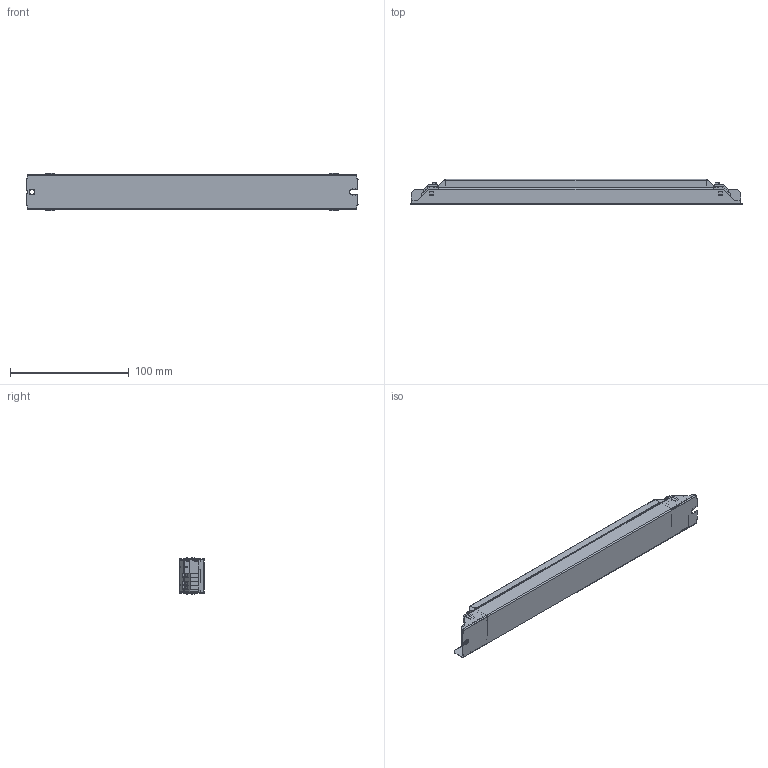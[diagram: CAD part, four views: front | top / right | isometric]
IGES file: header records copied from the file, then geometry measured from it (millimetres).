
Start section: SolidWorks IGES file using analytic representation for surfaces
Global section: file name: D:\ECTR_TEMP\OLQ-batchEngine\queue\temp\4183915swm000.igs; native system: SolidWorks 2017; preprocessor: SolidWorks 2017; author: SYSTEM; date: 200115.102713; units: millimetre
Bounding box: 279 x 21 x 31.39 mm (x, y, z)
Surface area: 35745.8 mm2 (no closed solid volume)
Topology: 0 solids, 0 shells, 875 faces, 6067 edges, 6067 vertices
Faces by surface type: bspline 693, revolution 182
